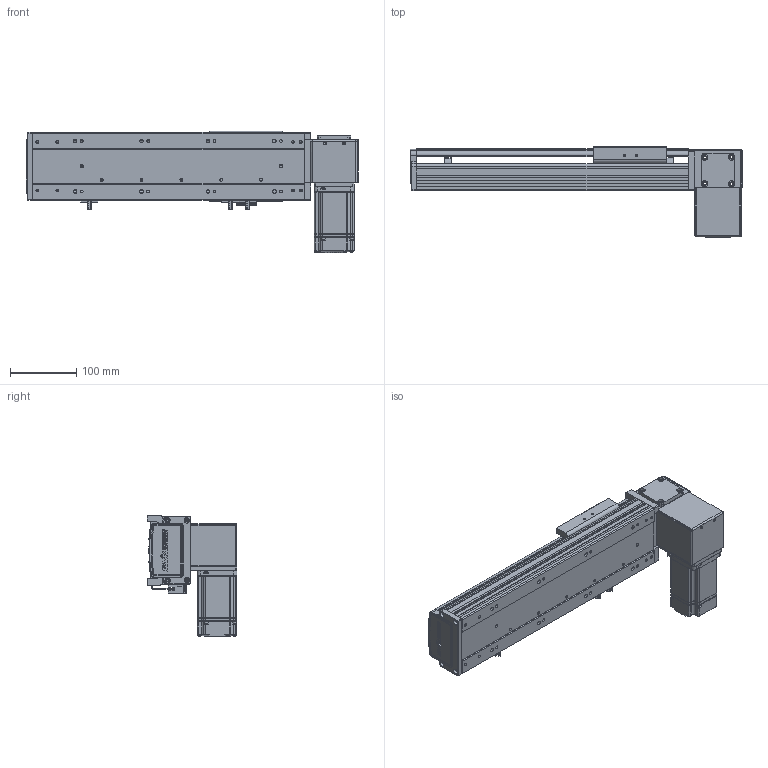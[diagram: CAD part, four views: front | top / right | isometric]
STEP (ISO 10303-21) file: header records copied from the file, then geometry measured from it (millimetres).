
FILE_DESCRIPTION (( 'STEP AP203' ), '1' );
FILE_NAME ('RY100-T-300-DL.SLDASM_200.step', '2024-04-24T01:10:29', ( '盈信电脑' ), ( '东莞市道滘镇水果街19号' ), 'SwSTEP 2.0', 'SolidWorks 2016', '' );
FILE_SCHEMA (( 'CONFIG_CONTROL_DESIGN' ));
Length unit declared in the file: millimetre
Products named in the file (16): RY100-T肮祭謫臏賑輸; RY100-T翋肮祭謫裔啣; RY100-T肮祭謫翋盓傅釱; RY100俋离覜茼え; RY100-T-300-RK倰第奻裔_200; 覜茼ん672; RY80-T肮祭謫狟殏俋欶; RY100綴裔啣; 滅袉蝶18-10; RY100-T左右折电机安装板; RY100-T翋肮祭謫裔啣2; RY100-T翋肮祭謫粣; 1; RY100-T粣創揤踡裔; RY100-T-300-DL.SLDASM_200; RY100-T-300-RK倰第菁釱_200
Assembly tree (18 placements, depth 2):
  RY100-T-300-DL.SLDASM_200
    RY100-T-300-RK倰第菁釱_200
    RY100-T-300-RK倰第奻裔_200
    RY100-T肮祭謫臏賑輸
    RY100綴裔啣
    覜茼ん672  x3
    RY100俋离覜茼え
    RY100-T翋肮祭謫粣
    RY100-T肮祭謫翋盓傅釱
    滅袉蝶18-10  x2
    RY100-T翋肮祭謫裔啣
    1
    RY100-T左右折电机安装板
    RY100-T粣創揤踡裔
    RY100-T翋肮祭謫裔啣2
    RY80-T肮祭謫狟殏俋欶
Bounding box: 500 x 135.5 x 182.5 mm (x, y, z)
Volume: 1366377.7 mm3; surface area: 516864.4 mm2
Topology: 18 solids, 18 shells, 2133 faces, 5870 edges, 3806 vertices
Faces by surface type: plane 1199, cylinder 723, cone 133, bspline 78
Entity records: 67757 total; most frequent: CARTESIAN_POINT 16064, ORIENTED_EDGE 10572, DIRECTION 10106, EDGE_CURVE 5286, LINE 3504, VECTOR 3504, VERTEX_POINT 3474, AXIS2_PLACEMENT_3D 3301
